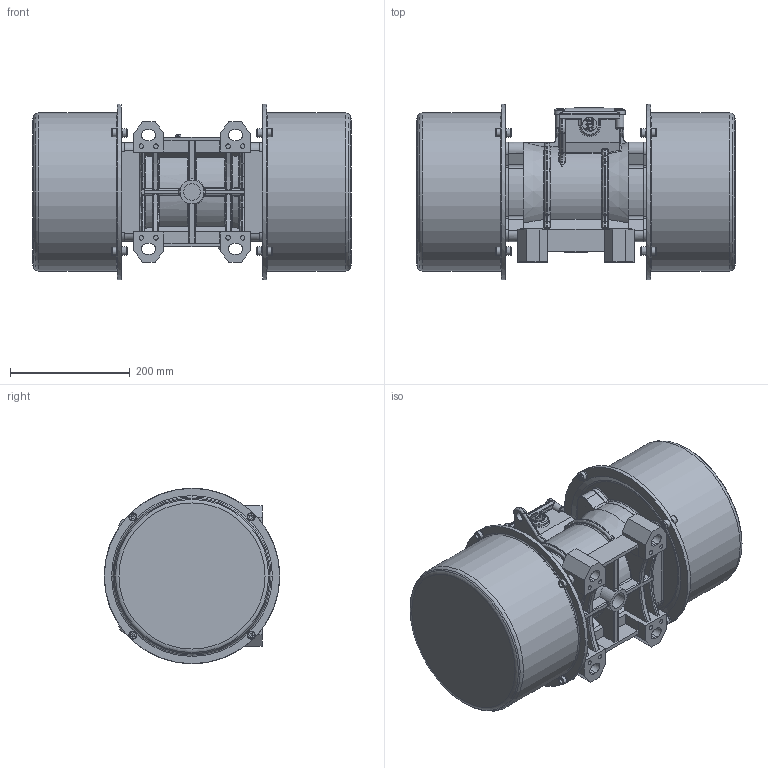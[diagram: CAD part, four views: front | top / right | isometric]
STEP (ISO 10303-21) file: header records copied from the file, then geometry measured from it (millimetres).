
FILE_DESCRIPTION(/* description */ (''),/* implementation_level */ '2;1');
FILE_NAME(/* name */ 'EVM-D 800x6.stp',/* time_stamp */ '2026-09-08T17:42:49+03:00',/* author */ ('PC'),/* organization */ (''),/* preprocessor_version */ 'ST-DEVELOPER v20.1',/* originating_system */ 'Autodesk Inventor 2026',/* authorisation */ '');
FILE_SCHEMA (('AUTOMOTIVE_DESIGN { 1 0 10303 214 3 1 1 }'));
Products named in the file (1): EVM-D 800x6
Bounding box: 532 x 293 x 293 mm (x, y, z)
Volume: 22491302.4 mm3; surface area: 833756.5 mm2
Topology: 1 solids, 60 shells, 1986 faces, 5208 edges, 3357 vertices
Faces by surface type: plane 1104, cylinder 444, torus 189, bspline 131, cone 115, sphere 3
Full cylindrical faces by diameter (mm): 3 x4, 4.917 x12, 6 x3, 6.4 x3, 6.647 x16, 7.5 x8, 8 x28, 8.4 x8, 8.5 x8, 9 x16, 10 x4, 10.5 x4, 13 x8, 14 x1, 15 x3, 20 x1, 22 x1, 24 x1, 28 x1, 40 x1, 254.6 x4, 260 x2, 264 x2, 293 x2
Entity records: 66510 total; most frequent: CARTESIAN_POINT 16549, ORIENTED_EDGE 10346, DIRECTION 9537, EDGE_CURVE 5173, VERTEX_POINT 3355, AXIS2_PLACEMENT_3D 3282, LINE 2973, VECTOR 2973
